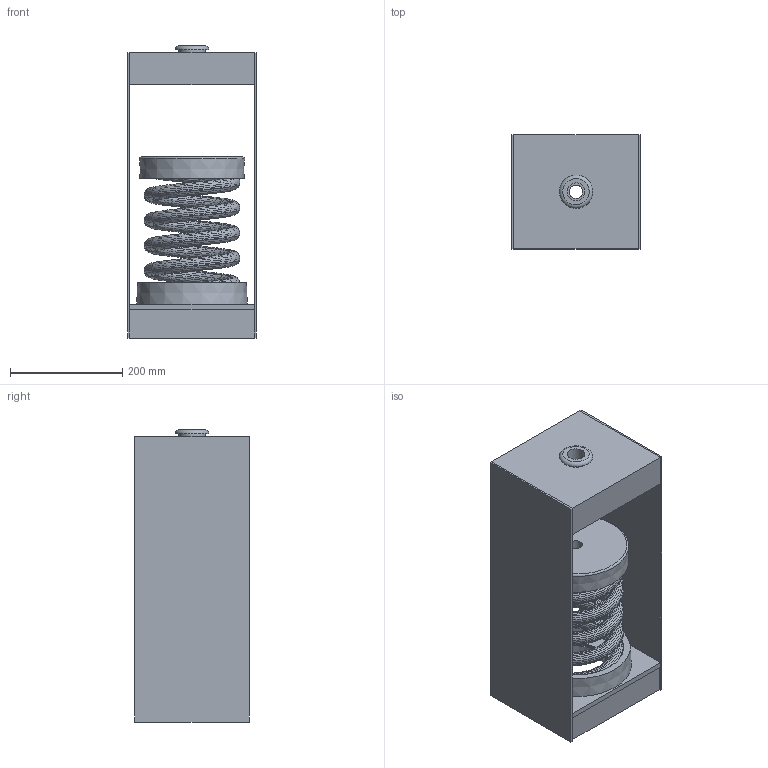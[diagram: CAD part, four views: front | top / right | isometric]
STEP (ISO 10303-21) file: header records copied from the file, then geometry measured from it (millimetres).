
FILE_DESCRIPTION(/* description */ (''),/* implementation_level */ '2;1');
FILE_NAME(/* name */ 'C:\001_Work\Designs\HANGER BOXES\30N 100 SERIES\30N-136, 158-159\30N-136.stp',/* time_stamp */ '2015-06-01T09:50:09-04:00',/* author */ ('rramoutar'),/* organization */ ('Mason Industries Inc.'),/* preprocessor_version */ 'ST-DEVELOPER v15.2',/* originating_system */ 'Autodesk Inventor 2014',/* authorisation */ '');
FILE_SCHEMA (('AUTOMOTIVE_DESIGN { 1 0 10303 214 3 1 1 }'));
Products named in the file (1): 30N-136
Bounding box: 228.6 x 203.2 x 519.87 mm (x, y, z)
Volume: 2848816.4 mm3; surface area: 1369587 mm2
Topology: 13 solids, 14 shells, 660 faces, 1379 edges, 758 vertices
Faces by surface type: bspline 505, plane 109, cylinder 29, cone 15, torus 2
Full cylindrical faces by diameter (mm): 23.812 x2, 31.75 x2, 41.275 x2, 46.831 x1, 47.625 x1, 82.55 x2, 92.075 x1, 96.837 x1, 96.838 x1, 107.95 x1, 112.712 x1, 114.3 x2, 117.475 x2, 169.862 x1, 174.625 x2, 176.212 x1
Entity records: 37719 total; most frequent: CARTESIAN_POINT 26895, ORIENTED_EDGE 2698, EDGE_CURVE 1349, B_SPLINE_CURVE_WITH_KNOTS 1016, VERTEX_POINT 756, EDGE_LOOP 719, DIRECTION 714, STYLED_ITEM 669
